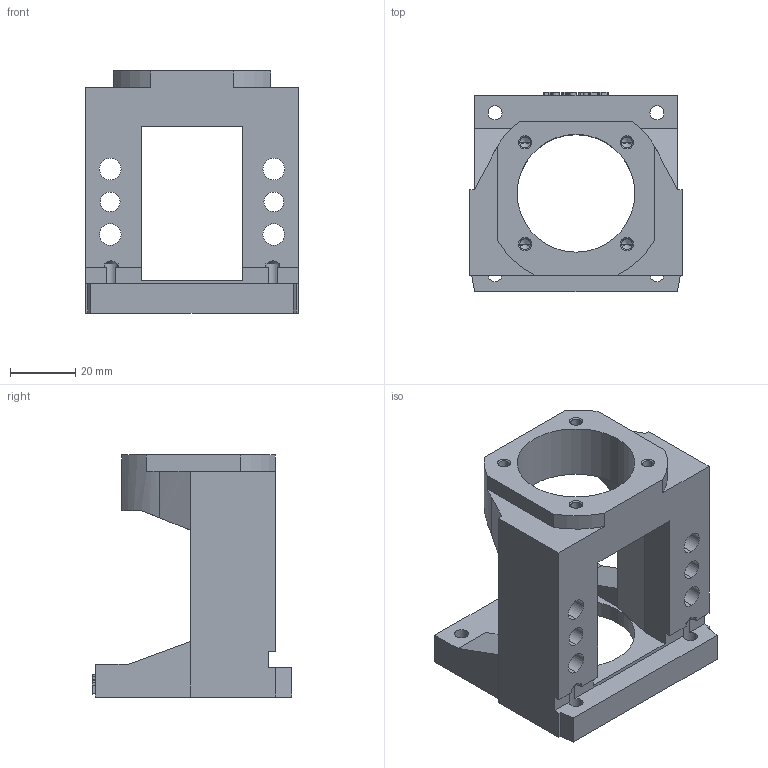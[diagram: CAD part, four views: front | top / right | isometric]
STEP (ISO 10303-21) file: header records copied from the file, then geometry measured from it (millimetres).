
FILE_DESCRIPTION((''),'2;1');
FILE_NAME('M60D-FK12-A','2020-08-24T',('Administrator'),(''),'PRO/ENGINEER BY PARAMETRIC TECHNOLOGY CORPORATION, 2010280','PRO/ENGINEER BY PARAMETRIC TECHNOLOGY CORPORATION, 2010280','');
FILE_SCHEMA(('CONFIG_CONTROL_DESIGN'));
Length unit declared in the file: millimetre
Products named in the file (1): M60D-FK12-A
Bounding box: 65 x 61 x 74 mm (x, y, z)
Volume: 83534.5 mm3; surface area: 28407.8 mm2
Topology: 1 solids, 1 shells, 250 faces, 682 edges, 440 vertices
Faces by surface type: plane 122, cylinder 56, extrusion 44, cone 28
Entity records: 8487 total; most frequent: CARTESIAN_POINT 2189, ORIENTED_EDGE 1340, DIRECTION 1174, EDGE_CURVE 670, VECTOR 478, VERTEX_POINT 440, LINE 434, AXIS2_PLACEMENT_3D 348
